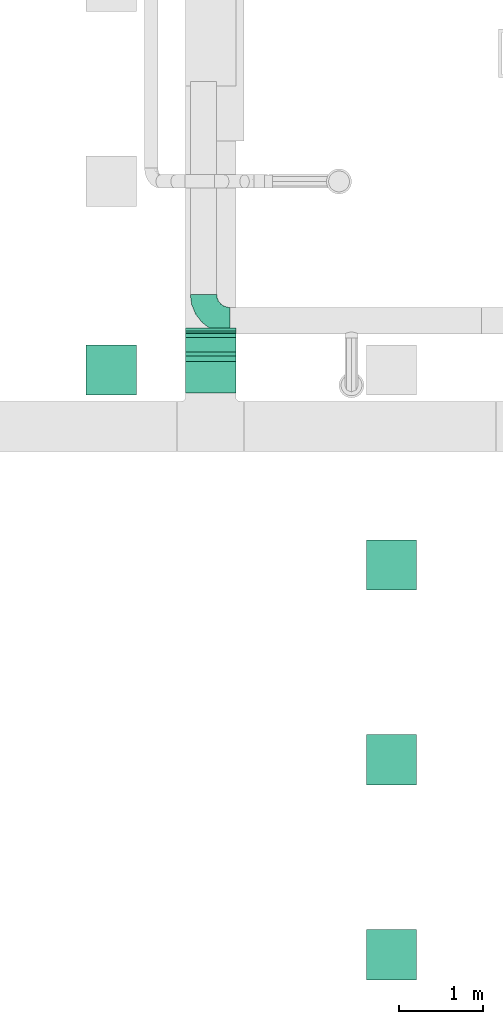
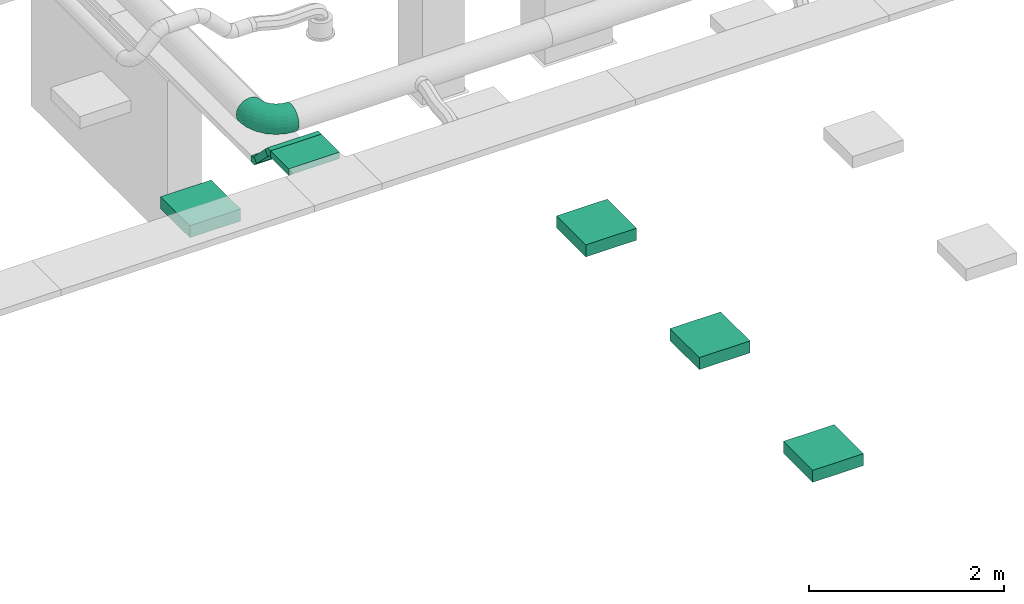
# One storey, part 20 of 119: 8 distribution elements, 1 flow fitting.
"""IFC2X3 building model written with IfcOpenShell, lengths in metres."""

from ifc_helpers import new_model, si_unit, direction, frame, frame_2d, origin, place, context, subcontext, project, spatial, rectangle, extrude, open_shell, surface_model, source, transform, mapped, element, save


model = new_model("IFC2X3")

# Units and contexts
model_context = context("Model", 3, precision=1e-05, world=origin(), true_north=direction((-0.4480736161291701, 0.8939966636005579)))
body_context = subcontext(model_context, "Body", "Model", "MODEL_VIEW")
ifc_project = project(units=[si_unit("LENGTHUNIT", "METRE"), si_unit("AREAUNIT", "SQUARE_METRE"), si_unit("VOLUMEUNIT", "CUBIC_METRE"), si_unit("PLANEANGLEUNIT", "RADIAN"), si_unit("THERMODYNAMICTEMPERATUREUNIT", "KELVIN"), si_unit("MASSUNIT", "GRAM", prefix="KILO"), si_unit("TIMEUNIT", "SECOND")], contexts=[model_context])

# Site, building, storey
site_placement = place(None, origin())
site = spatial("IfcSite", under=ifc_project, at=site_placement, Name="Site 1", CompositionType="ELEMENT")
building_placement = place(site_placement, origin())
building = spatial("IfcBuilding", under=site, at=building_placement, Name="Undefined", CompositionType="ELEMENT")
storey_placement = place(building_placement, frame((0.0, 0.0, 5.4)))
storey = spatial("IfcBuildingStorey", under=building, at=storey_placement, Name="R+1", CompositionType="ELEMENT", Elevation=5.4)

# Flow fitting
shared_shape_1 = source(origin(), body_context, "Body", "SurfaceModel", [
    surface_model("IfcFaceBasedSurfaceModel", [(0.12334725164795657, 0.0, -1.110223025e-15), (0.12264675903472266, 0.04110978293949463, -7.77156117e-16), (0.0007004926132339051, 0.041109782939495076, -7.77156117e-16), (0.0, 0.0, 0.0), (-0.1170905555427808, 0.04519480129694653, -0.031296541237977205), (-0.11914429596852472, 0.004131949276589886, -0.0316560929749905), (-0.22269912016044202, 0.05308645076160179, -0.0917568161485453), (-0.2259661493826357, 0.01211426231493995, -0.09281096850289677), (-0.3089281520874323, 0.06424692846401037, -0.1772605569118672), (-0.313185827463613, 0.023402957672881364, -0.17929702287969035), (-0.3699012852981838, 0.07791566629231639, -0.2819808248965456), (-0.3748594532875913, 0.03722872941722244, -0.285220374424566), (-0.4014633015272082, 0.09316116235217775, -0.39878110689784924), (-0.4067840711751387, 0.05264937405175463, -0.40336252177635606), (0.12059301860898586, 0.08079531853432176, -0.01055203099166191), (0.0027542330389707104, 0.08079531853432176, -0.01055203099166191), (-0.11106929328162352, 0.08474274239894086, -0.04079441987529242), (-0.21312067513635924, 0.09236857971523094, -0.09921822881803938), (-0.2964452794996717, 0.1031531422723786, -0.18184197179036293), (-0.3553646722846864, 0.11636147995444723, -0.2830349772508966), (-0.38586359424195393, 0.131093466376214, -0.39590110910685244), (0.11732598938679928, 0.11635210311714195, -0.03093698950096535), (0.006021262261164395, 0.1163521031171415, -0.030936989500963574), (-0.10149084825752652, 0.12008064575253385, -0.05950246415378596), (-0.19788356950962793, 0.12728363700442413, -0.11468672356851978), (-0.2765878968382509, 0.13747020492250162, -0.19272905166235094), (-0.3322402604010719, 0.14994615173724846, -0.28831099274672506), (-0.36104804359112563, 0.16386126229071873, -0.3949187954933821), (0.11306831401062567, 0.14535700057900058, -0.05976567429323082), (0.010278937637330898, 0.14535700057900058, -0.05976567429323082), (-0.08900797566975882, 0.14880029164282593, -0.08614575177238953), (-0.17802618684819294, 0.15545221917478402, -0.13710814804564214), (-0.25070925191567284, 0.16485946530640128, -0.2091798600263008), (-0.3021039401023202, 0.1763809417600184, -0.29744931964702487), (-0.32870778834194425, 0.189231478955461, -0.395901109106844), (0.10811014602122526, 0.16583337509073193, -0.09507345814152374), (0.015237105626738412, 0.16583337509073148, -0.09507345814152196), (-0.07447136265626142, 0.16894448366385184, -0.1189085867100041), (-0.15490177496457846, 0.17495468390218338, -0.16495451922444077), (-0.22057293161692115, 0.1834543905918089, -0.230073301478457), (-0.26700945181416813, 0.1938643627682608, -0.3098271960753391), (-0.2910467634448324, 0.20547517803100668, -0.3987811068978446), (0.10278937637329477, 0.17638579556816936, -0.13445417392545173), (0.020557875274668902, 0.17638579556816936, -0.1344541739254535), (-0.05887165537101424, 0.17914042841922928, -0.15555823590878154), (-0.13008622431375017, 0.18446197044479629, -0.1963281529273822), (-0.18823267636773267, 0.19198776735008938, -0.2539855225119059), (-0.22934842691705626, 0.20120494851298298, -0.324601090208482), (-0.2506315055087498, 0.21148537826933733, -0.40336252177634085), (0.09746860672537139, 0.17629513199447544, -0.17522409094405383), (0.025878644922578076, 0.17629513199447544, -0.17522409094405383), (-0.043271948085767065, 0.17869328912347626, -0.19359708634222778), (-0.10527067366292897, 0.18332617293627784, -0.22909098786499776), (-0.1558924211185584, 0.1898780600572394, -0.2792869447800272), (-0.1916874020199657, 0.19790245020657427, -0.3407641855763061), (-0.21021624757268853, 0.20685249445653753, -0.40933313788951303), (0.09251043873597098, 0.1655675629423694, -0.2146048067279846), (0.030836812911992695, 0.1655675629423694, -0.21460480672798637), (-0.028735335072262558, 0.1676335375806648, -0.2304328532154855), (-0.0821462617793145, 0.17162469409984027, -0.261010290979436), (-0.1257561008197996, 0.1772690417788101, -0.3042533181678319), (-0.1565929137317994, 0.18418192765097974, -0.35721499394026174), (-0.17255522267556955, 0.1918922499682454, -0.4162860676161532), (0.08825276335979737, 0.14493415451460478, -0.24991259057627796), (0.0350944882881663, 0.14493415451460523, -0.2499125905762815), (-0.01625246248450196, 0.1467148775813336, -0.2635552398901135), (-0.06228887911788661, 0.15015497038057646, -0.28991081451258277), (-0.09987745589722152, 0.15501999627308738, -0.32718322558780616), (-0.1264565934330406, 0.16097841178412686, -0.3728324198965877), (-0.14021496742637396, 0.16762416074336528, -0.4237474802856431), (0.08498573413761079, 0.11580103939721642, -0.27874127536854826), (0.03836151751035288, 0.11580103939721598, -0.2787412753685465), (-0.0066740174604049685, 0.11736288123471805, -0.2907070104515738), (-0.0470517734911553, 0.12038012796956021, -0.3138230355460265), (-0.08002007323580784, 0.12464715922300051, -0.34651403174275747), (-0.10333218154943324, 0.1298731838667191, -0.3865521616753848), (-0.11539941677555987, 0.13570205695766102, -0.43120889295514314), (0.08293199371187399, 0.08015359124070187, -0.2991262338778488), (0.04041525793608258, 0.08015359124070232, -0.2991262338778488), (-0.0006527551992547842, 0.08157783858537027, -0.31003781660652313), (-0.037473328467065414, 0.08432927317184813, -0.3311173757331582), (-0.06753720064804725, 0.08822038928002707, -0.36092837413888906), (-0.08879556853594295, 0.09298601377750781, -0.3974392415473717), (-0.0997997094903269, 0.09830137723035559, -0.438161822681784), (0.08223150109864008, 0.040421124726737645, -0.30967826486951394), (0.0411157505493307, 0.040421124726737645, -0.30967826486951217), (0.001400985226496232, 0.04179844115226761, -0.32023029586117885), (-0.03420629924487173, 0.044459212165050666, -0.34061525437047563), (-0.06327952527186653, 0.04822211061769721, -0.3694439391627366), (-0.08383740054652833, 0.052830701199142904, -0.4047517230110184), (-0.0944789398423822, 0.057970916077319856, -0.44413243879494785), (0.08293199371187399, -0.0006886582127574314, -0.3096782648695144), (0.04041525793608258, -0.0006886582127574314, -0.3096782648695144), (-0.0006527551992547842, 0.0007355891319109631, -0.3205898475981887), (-0.037473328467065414, 0.0034870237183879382, -0.34166940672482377), (-0.06753720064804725, 0.00737813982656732, -0.37148040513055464), (-0.08879556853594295, 0.012143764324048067, -0.4079912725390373), (-0.0997997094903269, 0.017459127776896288, -0.44871385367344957), (0.08498573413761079, -0.040374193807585, -0.29912623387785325), (0.03836151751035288, -0.040374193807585, -0.2991262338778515), (-0.0066740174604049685, -0.03881235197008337, -0.3110919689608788), (-0.0470517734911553, -0.03579510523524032, -0.33420799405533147), (-0.08002007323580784, -0.031528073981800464, -0.36689899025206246), (-0.10333218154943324, -0.02630204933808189, -0.4069371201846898), (-0.11539941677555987, -0.020473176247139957, -0.45159385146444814), (0.08825276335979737, -0.07593097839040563, -0.2787412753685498), (0.0350944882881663, -0.07593097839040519, -0.27874127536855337), (-0.01625246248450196, -0.0741502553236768, -0.29238392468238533), (-0.06228887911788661, -0.07071016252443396, -0.3187394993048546), (-0.09987745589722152, -0.06584513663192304, -0.356011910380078), (-0.1264565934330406, -0.05988672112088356, -0.40166110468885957), (-0.14021496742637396, -0.05324097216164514, -0.4525761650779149), (0.09251043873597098, -0.10493587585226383, -0.2499125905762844), (0.030836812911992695, -0.10493587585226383, -0.24991259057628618), (-0.028735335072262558, -0.10286990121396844, -0.2657406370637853), (-0.0821462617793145, -0.09887874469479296, -0.2963180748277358), (-0.1257561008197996, -0.09323439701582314, -0.3395611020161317), (-0.1565929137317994, -0.0863215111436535, -0.39252277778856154), (-0.17255522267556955, -0.07861118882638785, -0.451593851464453), (0.09746860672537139, -0.12541225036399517, -0.21460480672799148), (0.025878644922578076, -0.12541225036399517, -0.21460480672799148), (-0.043271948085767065, -0.12301409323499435, -0.23297780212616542), (-0.10527067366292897, -0.11838120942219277, -0.2684717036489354), (-0.1558924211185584, -0.11182932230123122, -0.31866766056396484), (-0.1916874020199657, -0.10380493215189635, -0.38014490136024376), (-0.21021624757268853, -0.09485488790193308, -0.4487138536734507), (0.10278937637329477, -0.13596467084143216, -0.1752240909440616), (0.020557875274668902, -0.13596467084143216, -0.17522409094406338), (-0.05887165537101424, -0.1332100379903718, -0.19632815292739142), (-0.13008622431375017, -0.12788849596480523, -0.23709806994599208), (-0.18823267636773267, -0.12036269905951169, -0.2947554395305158), (-0.22934842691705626, -0.11114551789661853, -0.36537100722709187), (-0.2506315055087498, -0.10086508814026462, -0.44413243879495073), (0.10811014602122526, -0.13587400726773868, -0.13445417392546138), (0.015237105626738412, -0.13587400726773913, -0.1344541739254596), (-0.07447136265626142, -0.13276289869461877, -0.15828930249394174), (-0.15490177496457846, -0.12675269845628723, -0.2043352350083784), (-0.22057293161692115, -0.11825299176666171, -0.26945401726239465), (-0.26700945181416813, -0.10784301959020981, -0.34920791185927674), (-0.2910467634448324, -0.09623220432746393, -0.4381618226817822), (0.11306831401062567, -0.12514643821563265, -0.09507345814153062), (0.010278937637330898, -0.12514643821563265, -0.09507345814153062), (-0.08900797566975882, -0.1217031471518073, -0.12145353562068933), (-0.17802618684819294, -0.11505121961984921, -0.17241593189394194), (-0.25070925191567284, -0.10564397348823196, -0.2444876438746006), (-0.3021039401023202, -0.09412249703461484, -0.33275710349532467), (-0.32870778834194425, -0.08127195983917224, -0.4312088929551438), (0.11732598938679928, -0.10451302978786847, -0.05976567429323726), (0.006021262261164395, -0.10451302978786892, -0.05976567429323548), (-0.10149084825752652, -0.10078448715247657, -0.08833114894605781), (-0.19788356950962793, -0.09358149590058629, -0.14351540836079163), (-0.2765878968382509, -0.0833949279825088, -0.2215577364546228), (-0.3322402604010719, -0.07091898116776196, -0.3171396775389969), (-0.36104804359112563, -0.057003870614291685, -0.42374748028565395), (0.12059301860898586, -0.07537991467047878, -0.030936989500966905), (0.0027542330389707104, -0.07537991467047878, -0.030936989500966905), (-0.11106929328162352, -0.07143249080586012, -0.06117937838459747), (-0.21312067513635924, -0.06380665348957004, -0.11960318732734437), (-0.2964452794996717, -0.05302209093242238, -0.20222693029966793), (-0.3553646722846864, -0.039813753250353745, -0.3034199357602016), (-0.38586359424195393, -0.025081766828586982, -0.41628606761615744), (0.12264675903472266, -0.039732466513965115, -0.010552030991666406), (0.0007004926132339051, -0.039732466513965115, -0.010552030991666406), (-0.1170905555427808, -0.03564744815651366, -0.04184857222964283), (-0.22269912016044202, -0.027755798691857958, -0.10230884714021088), (-0.3089281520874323, -0.016595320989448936, -0.18781258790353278), (-0.3699012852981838, -0.002926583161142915, -0.29253285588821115), (-0.4014633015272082, 0.012318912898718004, -0.4093331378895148)], [open_shell([[[0, 1, 2, 3]], [[3, 2, 4, 5]], [[5, 4, 6, 7]], [[7, 6, 8, 9]], [[9, 8, 10, 11]], [[11, 10, 12, 13]], [[1, 14, 15, 2]], [[2, 15, 16, 4]], [[4, 16, 17, 6]], [[6, 17, 18, 8]], [[8, 18, 19, 10]], [[10, 19, 20, 12]], [[14, 21, 22, 15]], [[15, 22, 23, 16]], [[16, 23, 24, 17]], [[17, 24, 25, 18]], [[18, 25, 26, 19]], [[19, 26, 27, 20]], [[21, 28, 29, 22]], [[22, 29, 30, 23]], [[23, 30, 31, 24]], [[24, 31, 32, 25]], [[25, 32, 33, 26]], [[26, 33, 34, 27]], [[28, 35, 36, 29]], [[29, 36, 37, 30]], [[30, 37, 38, 31]], [[31, 38, 39, 32]], [[32, 39, 40, 33]], [[33, 40, 41, 34]], [[35, 42, 43, 36]], [[36, 43, 44, 37]], [[37, 44, 45, 38]], [[38, 45, 46, 39]], [[39, 46, 47, 40]], [[40, 47, 48, 41]], [[42, 49, 50, 43]], [[43, 50, 51, 44]], [[44, 51, 52, 45]], [[45, 52, 53, 46]], [[46, 53, 54, 47]], [[47, 54, 55, 48]], [[49, 56, 57, 50]], [[50, 57, 58, 51]], [[51, 58, 59, 52]], [[52, 59, 60, 53]], [[53, 60, 61, 54]], [[54, 61, 62, 55]], [[56, 63, 64, 57]], [[57, 64, 65, 58]], [[58, 65, 66, 59]], [[59, 66, 67, 60]], [[60, 67, 68, 61]], [[61, 68, 69, 62]], [[63, 70, 71, 64]], [[64, 71, 72, 65]], [[65, 72, 73, 66]], [[66, 73, 74, 67]], [[67, 74, 75, 68]], [[68, 75, 76, 69]], [[70, 77, 78, 71]], [[71, 78, 79, 72]], [[72, 79, 80, 73]], [[73, 80, 81, 74]], [[74, 81, 82, 75]], [[75, 82, 83, 76]], [[77, 84, 85, 78]], [[78, 85, 86, 79]], [[79, 86, 87, 80]], [[80, 87, 88, 81]], [[81, 88, 89, 82]], [[82, 89, 90, 83]], [[84, 91, 92, 85]], [[85, 92, 93, 86]], [[86, 93, 94, 87]], [[87, 94, 95, 88]], [[88, 95, 96, 89]], [[89, 96, 97, 90]], [[91, 98, 99, 92]], [[92, 99, 100, 93]], [[93, 100, 101, 94]], [[94, 101, 102, 95]], [[95, 102, 103, 96]], [[96, 103, 104, 97]], [[98, 105, 106, 99]], [[99, 106, 107, 100]], [[100, 107, 108, 101]], [[101, 108, 109, 102]], [[102, 109, 110, 103]], [[103, 110, 111, 104]], [[105, 112, 113, 106]], [[106, 113, 114, 107]], [[107, 114, 115, 108]], [[108, 115, 116, 109]], [[109, 116, 117, 110]], [[110, 117, 118, 111]], [[112, 119, 120, 113]], [[113, 120, 121, 114]], [[114, 121, 122, 115]], [[115, 122, 123, 116]], [[116, 123, 124, 117]], [[117, 124, 125, 118]], [[119, 126, 127, 120]], [[120, 127, 128, 121]], [[121, 128, 129, 122]], [[122, 129, 130, 123]], [[123, 130, 131, 124]], [[124, 131, 132, 125]], [[126, 133, 134, 127]], [[127, 134, 135, 128]], [[128, 135, 136, 129]], [[129, 136, 137, 130]], [[130, 137, 138, 131]], [[131, 138, 139, 132]], [[133, 140, 141, 134]], [[134, 141, 142, 135]], [[135, 142, 143, 136]], [[136, 143, 144, 137]], [[137, 144, 145, 138]], [[138, 145, 146, 139]], [[140, 147, 148, 141]], [[141, 148, 149, 142]], [[142, 149, 150, 143]], [[143, 150, 151, 144]], [[144, 151, 152, 145]], [[145, 152, 153, 146]], [[147, 154, 155, 148]], [[148, 155, 156, 149]], [[149, 156, 157, 150]], [[150, 157, 158, 151]], [[151, 158, 159, 152]], [[152, 159, 160, 153]], [[154, 161, 162, 155]], [[155, 162, 163, 156]], [[156, 163, 164, 157]], [[157, 164, 165, 158]], [[158, 165, 166, 159]], [[159, 166, 167, 160]], [[161, 0, 3, 162]], [[162, 3, 5, 163]], [[163, 5, 7, 164]], [[164, 7, 9, 165]], [[165, 9, 11, 166]], [[166, 11, 13, 167]]])]),
])
flow_fitting_placement = place(storey_placement, origin())
element("IfcFlowFitting", 1, at=flow_fitting_placement, inside=storey, Name="Coude", ObjectType="Coude", context=body_context, shape_type="MappedRepresentation", body=[
    mapped(shared_shape_1, transform((46.383597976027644, 8.917707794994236, 2.775), x_axis=(-0.13052619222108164, 0.9914448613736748, 0.0), y_axis=(0.12832103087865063, 0.01689378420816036, -0.9915887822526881), z_axis=(-0.9831056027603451, -0.1294283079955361, -0.12942830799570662))),
])

# Distribution elements
shared_shape_2 = source(origin(), body_context, "Body", "SurfaceModel", [
    surface_model("IfcFaceBasedSurfaceModel", [(0.0, 0.03343145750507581, 0.0), (0.0, 0.0, 0.0), (0.6000000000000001, 0.0, 0.0), (0.6000000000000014, 0.03343145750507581, 0.0), (0.0, -0.023639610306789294, 0.023639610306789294), (0.6000000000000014, -0.023639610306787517, 0.02363961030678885), (0.0, -0.08020815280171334, -0.03292893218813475), (0.0, -0.03313708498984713, -0.08000000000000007), (0.6000000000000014, -0.03313708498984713, -0.08000000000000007), (0.6000000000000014, -0.08020815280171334, -0.03292893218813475), (0.0, 0.03343145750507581, -0.08000000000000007), (0.6000000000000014, 0.03343145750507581, -0.08000000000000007)], [open_shell([[[0, 1, 2, 3]], [[1, 4, 5, 2]], [[6, 7, 8, 9]], [[7, 10, 11, 8]], [[11, 3, 2]], [[11, 2, 5]], [[11, 5, 9]], [[11, 9, 8]], [[1, 0, 10]], [[4, 1, 10]], [[6, 4, 10]], [[7, 6, 10]]])]),
])
distribution_element_1_placement = place(storey_placement, origin())
element("IfcDistributionElement", 2, at=distribution_element_1_placement, inside=storey, Name="Connecteur articulé vertical Montant", ObjectType="Connecteur articulé vertical Montant", context=body_context, shape_type="MappedRepresentation", body=[
    mapped(shared_shape_2, transform((46.311, 8.602821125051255, 2.5300000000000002), x_axis=(1.0, 0.0, 0.0), y_axis=(0.0, 1.0, 0.0), z_axis=(0.0, 0.0, 1.0))),
])
distribution_element_2_placement = place(storey_placement, origin())
element("IfcDistributionElement", 3, at=distribution_element_2_placement, inside=storey, Name="Connecteur articulé vertical Descendant", ObjectType="Connecteur articulé vertical Descendant", context=body_context, shape_type="MappedRepresentation", body=[
    mapped(shared_shape_2, transform((46.91100000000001, 8.269684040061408, 2.7500000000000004), x_axis=(-1.0, 0.0, 0.0), y_axis=(-5.23364153e-16, 0.7071067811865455, -0.7071067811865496), z_axis=(-5.23364153e-16, -0.7071067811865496, -0.7071067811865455))),
])
distribution_element_3_placement = place(storey_placement, origin())
element("IfcDistributionElement", 4, at=distribution_element_3_placement, inside=storey, Name="Chemin(s) de câbles", ObjectType="Chemin(s) de câbles", context=body_context, shape_type="SweptSolid", body=[
    extrude(rectangle(XDim=0.6, YDim=0.08, at=frame_2d((3.552713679e-15, 0.0), x_axis=(-1.0, 0.0))), frame((46.611000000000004, 8.550897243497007, 2.5253553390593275), z_axis=(-8.6595606e-17, -0.7071067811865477, 0.7071067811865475), x_axis=(1.0, 0.0, 0.0)), (0.0, 0.0, 1.0), 0.32426406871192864),
])
distribution_element_4_placement = place(storey_placement, origin())
element("IfcDistributionElement", 5, at=distribution_element_4_placement, inside=storey, Name="Chemin(s) de câbles", ObjectType="Chemin(s) de câbles", context=body_context, shape_type="SweptSolid", body=[
    extrude(rectangle(XDim=0.6, YDim=0.08, at=frame_2d((3.552713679e-15, 0.0), x_axis=(-1.0, 0.0))), frame((46.61100000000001, 8.236252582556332, 2.7900000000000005), z_axis=(0.0, -1.0, 0.0), x_axis=(-1.0, 0.0, 0.0)), (0.0, 0.0, 1.0), 0.37225258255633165),
])
distribution_element_5_placement = place(storey_placement, origin())
element("IfcDistributionElement", 6, at=distribution_element_5_placement, inside=storey, Name="Decken-Rechteckleuchte mit Rahmen AP", ObjectType="Decken-Rechteckleuchte mit Rahmen AP", context=body_context, shape_type="SweptSolid", body=[
    extrude(rectangle(XDim=0.6000000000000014, YDim=0.6000000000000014, at=frame_2d((3.552713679e-15, 0.0), x_axis=(0.0, 1.0))), frame((48.76792114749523, 3.4875, 2.5500000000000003), z_axis=(0.0, 0.0, -1.0), x_axis=(1.0, 0.0, 0.0)), (0.0, 0.0, 1.0), 0.15),
])
distribution_element_6_placement = place(storey_placement, origin())
element("IfcDistributionElement", 7, at=distribution_element_6_placement, inside=storey, Name="Decken-Rechteckleuchte mit Rahmen AP", ObjectType="Decken-Rechteckleuchte mit Rahmen AP", context=body_context, shape_type="SweptSolid", body=[
    extrude(rectangle(XDim=0.6000000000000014, YDim=0.6000000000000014, at=frame_2d((3.552713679e-15, 0.0), x_axis=(0.0, 1.0))), frame((45.425337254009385, 8.1375, 2.5500000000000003), z_axis=(0.0, 0.0, -1.0), x_axis=(1.0, 0.0, 0.0)), (0.0, 0.0, 1.0), 0.15),
])
distribution_element_7_placement = place(storey_placement, origin())
element("IfcDistributionElement", 8, at=distribution_element_7_placement, inside=storey, Name="Decken-Rechteckleuchte mit Rahmen AP", ObjectType="Decken-Rechteckleuchte mit Rahmen AP", context=body_context, shape_type="SweptSolid", body=[
    extrude(rectangle(XDim=0.6000000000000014, YDim=0.6000000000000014, at=frame_2d((3.552713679e-15, 0.0), x_axis=(0.0, 1.0))), frame((48.76792114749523, 5.8125, 2.5500000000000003), z_axis=(0.0, 0.0, -1.0), x_axis=(1.0, 0.0, 0.0)), (0.0, 0.0, 1.0), 0.15),
])
distribution_element_8_placement = place(storey_placement, origin())
element("IfcDistributionElement", 9, at=distribution_element_8_placement, inside=storey, Name="Decken-Rechteckleuchte mit Rahmen AP", ObjectType="Decken-Rechteckleuchte mit Rahmen AP", context=body_context, shape_type="SweptSolid", body=[
    extrude(rectangle(XDim=0.6000000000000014, YDim=0.6000000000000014, at=frame_2d((3.552713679e-15, 0.0), x_axis=(0.0, 1.0))), frame((48.76792114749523, 1.1625, 2.5500000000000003), z_axis=(0.0, 0.0, -1.0), x_axis=(1.0, 0.0, 0.0)), (0.0, 0.0, 1.0), 0.15),
])

save(model, "model.ifc")
